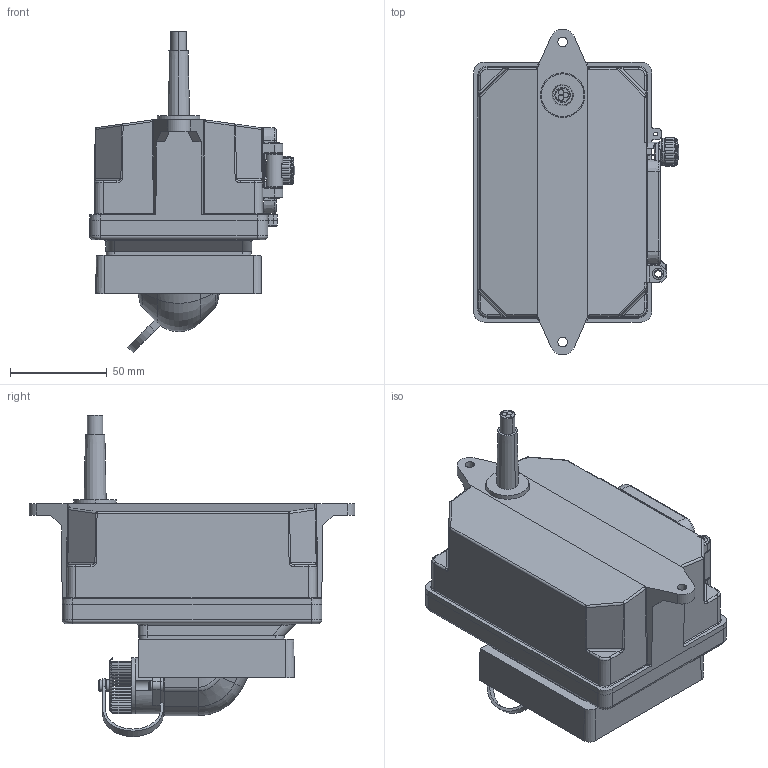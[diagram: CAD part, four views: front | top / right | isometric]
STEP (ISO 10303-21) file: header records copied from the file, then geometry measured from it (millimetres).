
FILE_DESCRIPTION (( 'STEP AP203' ), '1' );
FILE_NAME ('3D - HSW4049 Außenkontur.STEP', '2019-07-25T09:04:13', ( '' ), ( '' ), 'SwSTEP 2.0', 'SolidWorks 2013', '' );
FILE_SCHEMA (( 'CONFIG_CONTROL_DESIGN' ));
Length unit declared in the file: millimetre
Products named in the file (1): 3D - HSW4049 Außenkontur
Bounding box: 105.82 x 168 x 165.75 mm (x, y, z)
Surface area: 89482.3 mm2 (no closed solid volume)
Topology: 0 solids, 37 shells, 894 faces, 3293 edges, 2300 vertices
Faces by surface type: plane 338, cylinder 279, bspline 91, torus 90, cone 68, sphere 28
Entity records: 41392 total; most frequent: CARTESIAN_POINT 15017, DIRECTION 5265, ORIENTED_EDGE 5124, EDGE_CURVE 3279, VERTEX_POINT 2299, AXIS2_PLACEMENT_3D 1916, VECTOR 1433, LINE 1433
